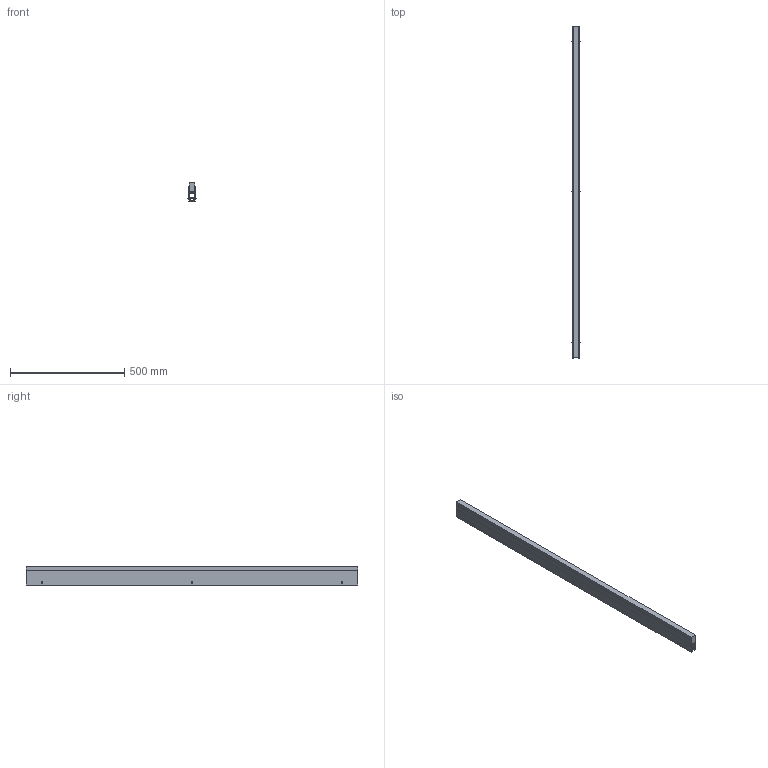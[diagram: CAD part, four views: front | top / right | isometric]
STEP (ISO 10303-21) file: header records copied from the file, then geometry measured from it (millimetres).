
FILE_DESCRIPTION(/* description */ ('Unknown'),/* implementation_level */ '2;1');
FILE_NAME(/* name */ '98838',/* time_stamp */ '2023-02-07T08:03:35-05:00',/* author */ ('Unknown'),/* organization */ ('Unknown'),/* preprocessor_version */ 'ST-DEVELOPER v18.1',/* originating_system */ 'Solid Edge',/* authorisation */ 'Unknown');
FILE_SCHEMA (('AUTOMOTIVE_DESIGN {1 0 10303 214 3 1 1}'));
Length unit declared in the file: millimetre
Products named in the file (5): CONTROCASSA 3D-ACCESSORIO; L-PR0161; LED-RIV001; MSL03327; LED-POL022
Assembly tree (11 placements, depth 2):
  CONTROCASSA 3D-ACCESSORIO
    L-PR0161
    LED-RIV001  x6
    MSL03327  x3
    LED-POL022
Bounding box: 35.51 x 1453 x 80 mm (x, y, z)
Volume: 1928736.9 mm3; surface area: 747166.2 mm2
Topology: 11 solids, 11 shells, 346 faces, 981 edges, 656 vertices
Faces by surface type: cylinder 189, plane 133, torus 18, sphere 6
Full cylindrical faces by diameter (mm): 3.8 x6, 4.1 x12, 5 x3, 7.8 x6
Entity records: 8345 total; most frequent: CARTESIAN_POINT 1865, ORIENTED_EDGE 1358, DIRECTION 1296, EDGE_CURVE 679, AXIS2_PLACEMENT_3D 477, VERTEX_POINT 462, LINE 342, VECTOR 342
